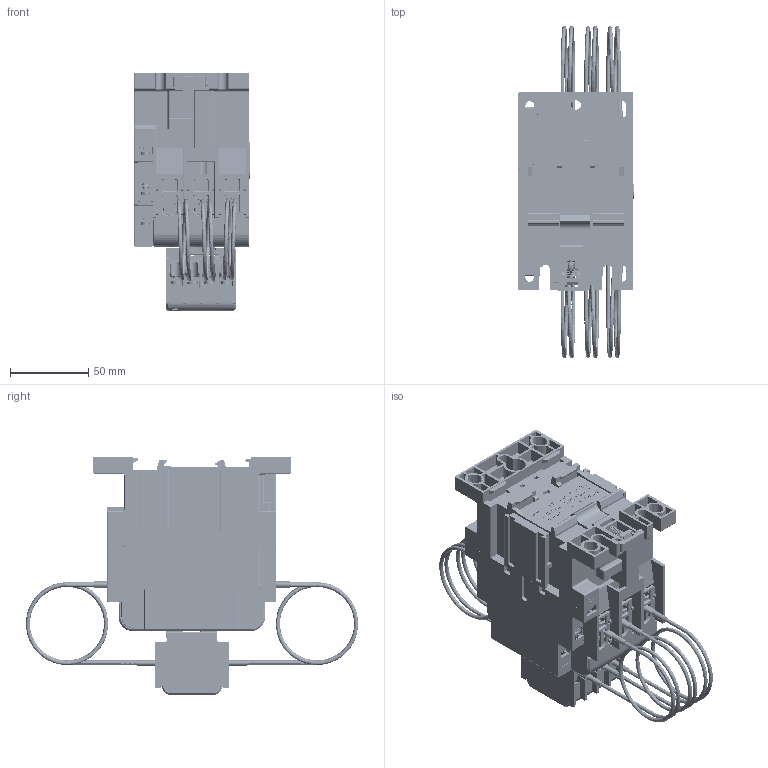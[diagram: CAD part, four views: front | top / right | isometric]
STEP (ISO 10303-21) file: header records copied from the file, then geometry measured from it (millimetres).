
FILE_DESCRIPTION((''),'2;1');
FILE_NAME('CDC19S-63','2020-11-04T',('yunfei.yang'),(''),'PRO/ENGINEER BY PARAMETRIC TECHNOLOGY CORPORATION, 2015440','PRO/ENGINEER BY PARAMETRIC TECHNOLOGY CORPORATION, 2015440','');
FILE_SCHEMA(('CONFIG_CONTROL_DESIGN'));
Products named in the file (1): CDC19S-63
Bounding box: 73.9 x 212.31 x 151.8 mm (x, y, z)
Volume: 660639.1 mm3; surface area: 212972.6 mm2
Topology: 7 solids, 13 shells, 10741 faces, 30094 edges, 19375 vertices
Faces by surface type: plane 7358, cylinder 1977, extrusion 750, cone 224, bspline 204, torus 181, sphere 47
Entity records: 382774 total; most frequent: CARTESIAN_POINT 108663, ORIENTED_EDGE 60164, DIRECTION 52049, EDGE_CURVE 30082, VECTOR 22907, LINE 22157, VERTEX_POINT 19375, AXIS2_PLACEMENT_3D 14571
